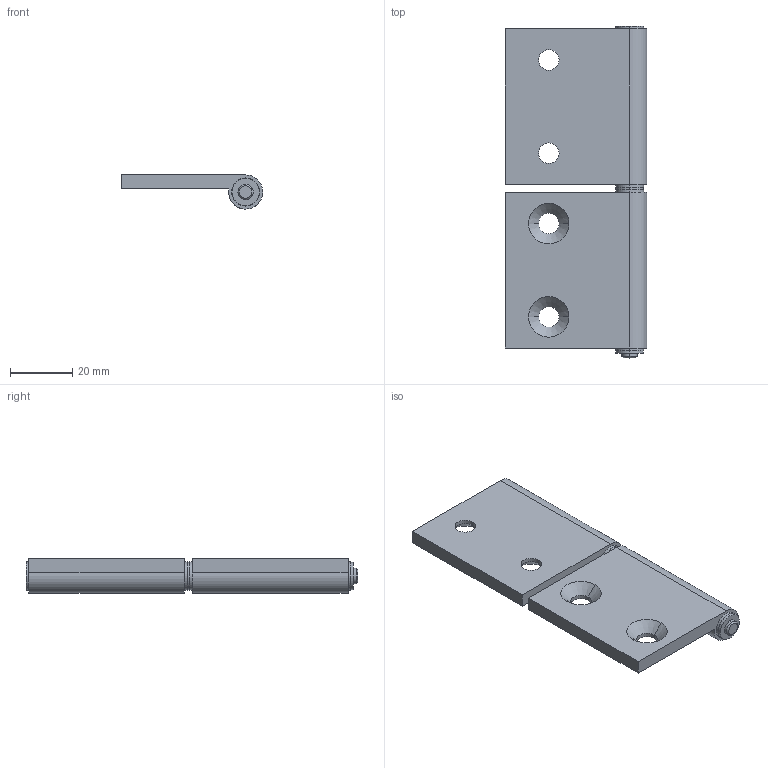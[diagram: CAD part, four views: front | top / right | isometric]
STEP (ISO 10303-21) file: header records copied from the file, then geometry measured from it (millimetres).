
FILE_DESCRIPTION (( 'STEP AP203' ), '1' );
FILE_NAME ('422045_Scharnier 8 AL 50x80 innenliegend rechts.step', '2018-11-29T14:19:55', ( '' ), ( '' ), 'SwSTEP 2.0', 'SolidWorks 2017', '' );
FILE_SCHEMA (( 'CONFIG_CONTROL_DESIGN' ));
Length unit declared in the file: millimetre
Products named in the file (1): 422045_Scharnier 8 AL 50x80 innenliegend rechts
Bounding box: 45.5 x 106.7 x 11 mm (x, y, z)
Volume: 24848.6 mm3; surface area: 13373.6 mm2
Topology: 2 solids, 2 shells, 59 faces, 129 edges, 82 vertices
Faces by surface type: cylinder 29, plane 18, cone 12
Entity records: 1732 total; most frequent: DIRECTION 319, CARTESIAN_POINT 271, ORIENTED_EDGE 258, AXIS2_PLACEMENT_3D 130, EDGE_CURVE 129, VERTEX_POINT 82, EDGE_LOOP 77, CIRCLE 70
